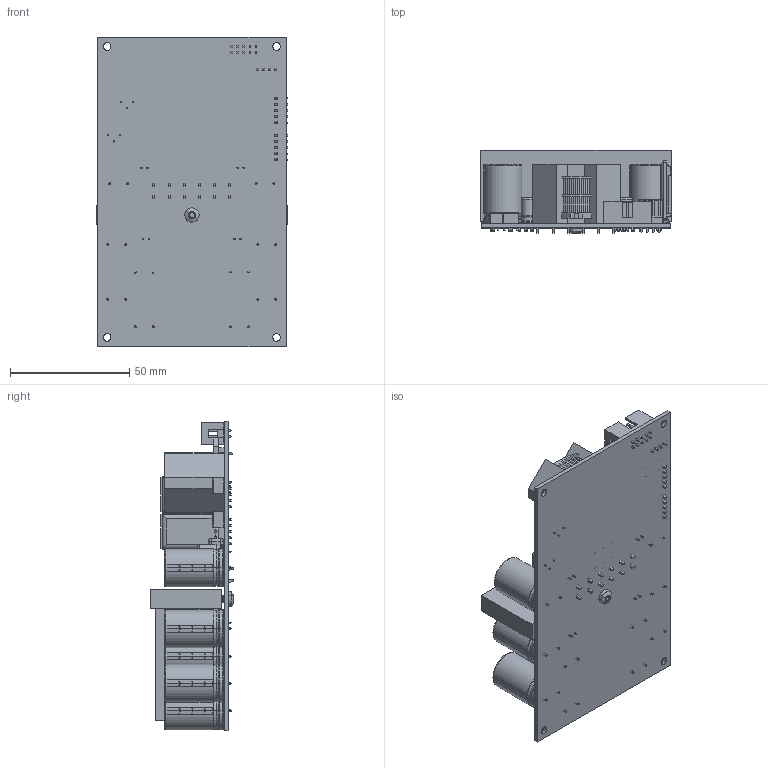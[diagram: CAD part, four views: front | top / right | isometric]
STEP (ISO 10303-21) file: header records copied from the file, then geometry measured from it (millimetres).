
FILE_DESCRIPTION (( 'STEP AP214' ), '1' );
FILE_NAME ('UcD700HG with HxR 03xx.STEP', '2020-11-20T11:01:33', ( '' ), ( '' ), 'SwSTEP 2.0', 'SolidWorks 2017', '' );
FILE_SCHEMA (( 'AUTOMOTIVE_DESIGN' ));
Length unit declared in the file: millimetre
Products named in the file (22): cap; BOXHEADER_2X05; T2&3; UcD700 HG; Hsink SEC8L6W3H8T2; Bolt M3x6 Panhead TX Zinc_MRT-TT-M3x6H-Steel-fzb; 4pin; Extruded_4; HxR; FCon; 820328480; ECAP_16x25_7.5; L8; 820320728; Extruded_3; ECAP_6.3x11_2.5; 914015824; Extruded; 914016096; pot_blue; Extruded_2; UcD700HG with HxR 03xx
Assembly tree (50 placements, depth 4):
  UcD700HG with HxR 03xx
    UcD700 HG
    4pin
    FCon  x6
    HxR  x2
    pot_blue  x2
    Hsink SEC8L6W3H8T2
    T2&3  x6
    cap  x5
    L8
      914015824  x2
        Extruded
      914016096
        Extruded_2
      820320728
        Extruded_3
      820328480
        Extruded_4
    BOXHEADER_2X05
    ECAP_6.3x11_2.5  x4
    ECAP_16x25_7.5  x10
    Bolt M3x6 Panhead TX Zinc_MRT-TT-M3x6H-Steel-fzb
Bounding box: 80.08 x 35 x 129.89 mm (x, y, z)
Volume: 124375.9 mm3; surface area: 67873.8 mm2
Topology: 77 solids, 547 shells, 3300 faces, 9661 edges, 6989 vertices
Faces by surface type: plane 1843, cylinder 759, bspline 386, torus 170, cone 86, sphere 56
Entity records: 66156 total; most frequent: CARTESIAN_POINT 16103, ORIENTED_EDGE 7180, DIRECTION 7113, EDGE_CURVE 4214, VERTEX_POINT 3102, LINE 3027, VECTOR 3027, AXIS2_PLACEMENT_3D 2043
